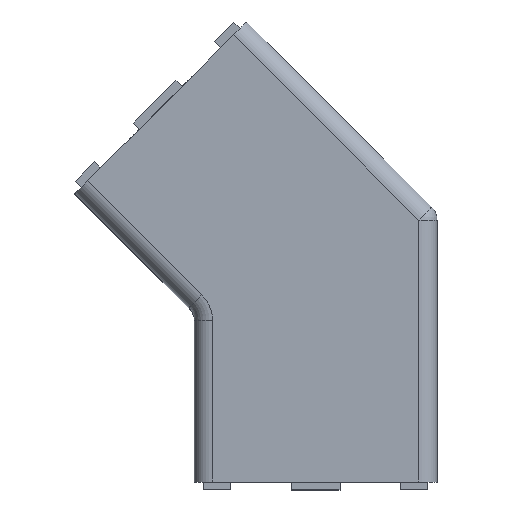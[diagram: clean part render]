
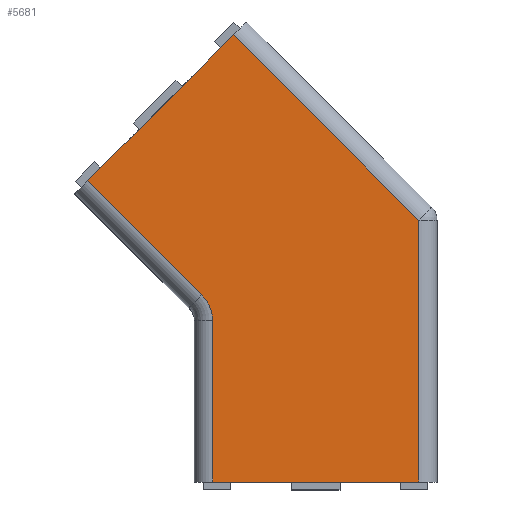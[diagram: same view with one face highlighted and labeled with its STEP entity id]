
A CAD part, top view. The second image highlights one B-rep face of the part: STEP entity #5681.
In plain terms, the highlighted planar face has unit normal (0, 0, 1).
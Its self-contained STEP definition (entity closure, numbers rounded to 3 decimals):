
#65 = VECTOR ( 'NONE', #880, 1000. ) ;
#81 = AXIS2_PLACEMENT_3D ( 'NONE', #7157, #4298, #4864 ) ;
#295 = DIRECTION ( 'NONE',  ( 1., 0., 0. ) ) ;
#323 = VERTEX_POINT ( 'NONE', #2312 ) ;
#692 = ORIENTED_EDGE ( 'NONE', *, *, #952, .F. ) ;
#765 = LINE ( 'NONE', #6126, #3161 ) ;
#880 = DIRECTION ( 'NONE',  ( 0., 1., 0. ) ) ;
#952 = EDGE_CURVE ( 'NONE', #955, #5281, #5369, .T. ) ;
#955 = VERTEX_POINT ( 'NONE', #6483 ) ;
#1208 = CARTESIAN_POINT ( 'NONE',  ( -17., 0., 20. ) ) ;
#1235 = CARTESIAN_POINT ( 'NONE',  ( 20., 6.8, 20. ) ) ;
#1253 = EDGE_CURVE ( 'NONE', #3680, #3958, #6692, .T. ) ;
#1265 = DIRECTION ( 'NONE',  ( -1., 0., 0. ) ) ;
#1721 = LINE ( 'NONE', #3820, #65 ) ;
#2070 = CARTESIAN_POINT ( 'NONE',  ( -18.757, 30.839, 20. ) ) ;
#2143 = CARTESIAN_POINT ( 'NONE',  ( -17.879, 29.96, 20. ) ) ;
#2312 = CARTESIAN_POINT ( 'NONE',  ( 17., 0., 20. ) ) ;
#2580 = DIRECTION ( 'NONE',  ( 0.707, 0.707, 0. ) ) ;
#2909 = CARTESIAN_POINT ( 'NONE',  ( -37.564, 49.645, 20. ) ) ;
#2955 = EDGE_LOOP ( 'NONE', ( #692, #5087, #6919, #5954, #6850, #5435, #3829 ) ) ;
#3128 = EDGE_CURVE ( 'NONE', #4150, #3958, #765, .T. ) ;
#3161 = VECTOR ( 'NONE', #2580, 1000. ) ;
#3680 = VERTEX_POINT ( 'NONE', #6456 ) ;
#3738 = LINE ( 'NONE', #5488, #6684 ) ;
#3820 = CARTESIAN_POINT ( 'NONE',  ( 17., 6.8, 20. ) ) ;
#3829 = ORIENTED_EDGE ( 'NONE', *, *, #6761, .T. ) ;
#3874 = VECTOR ( 'NONE', #5214, 1000. ) ;
#3938 = AXIS2_PLACEMENT_3D ( 'NONE', #1235, #4851, #1265 ) ;
#3958 = VERTEX_POINT ( 'NONE', #6997 ) ;
#4150 = VERTEX_POINT ( 'NONE', #2909 ) ;
#4227 = EDGE_CURVE ( 'NONE', #955, #5658, #3738, .T. ) ;
#4298 = DIRECTION ( 'NONE',  ( 0., 0., 1. ) ) ;
#4312 = PLANE ( 'NONE',  #3938 ) ;
#4438 = VECTOR ( 'NONE', #295, 1000. ) ;
#4769 = VECTOR ( 'NONE', #5146, 1000. ) ;
#4851 = DIRECTION ( 'NONE',  ( 0., 0., -1. ) ) ;
#4864 = DIRECTION ( 'NONE',  ( -1., 0., 0. ) ) ;
#4891 = LINE ( 'NONE', #2143, #3874 ) ;
#5087 = ORIENTED_EDGE ( 'NONE', *, *, #4227, .T. ) ;
#5109 = FACE_OUTER_BOUND ( 'NONE', #2955, .T. ) ;
#5146 = DIRECTION ( 'NONE',  ( -0.707, 0.707, 0. ) ) ;
#5214 = DIRECTION ( 'NONE',  ( 0.707, -0.707, 0. ) ) ;
#5281 = VERTEX_POINT ( 'NONE', #2070 ) ;
#5369 = CIRCLE ( 'NONE', #81, 6. ) ;
#5431 = DIRECTION ( 'NONE',  ( 0., -1., 0. ) ) ;
#5435 = ORIENTED_EDGE ( 'NONE', *, *, #3128, .F. ) ;
#5488 = CARTESIAN_POINT ( 'NONE',  ( -17., 6.8, 20. ) ) ;
#5658 = VERTEX_POINT ( 'NONE', #1208 ) ;
#5681 = ADVANCED_FACE ( 'NONE', ( #5109 ), #4312, .F. ) ;
#5954 = ORIENTED_EDGE ( 'NONE', *, *, #6660, .T. ) ;
#6126 = CARTESIAN_POINT ( 'NONE',  ( -11.401, 75.808, 20. ) ) ;
#6456 = CARTESIAN_POINT ( 'NONE',  ( 17., 43.165, 20. ) ) ;
#6483 = CARTESIAN_POINT ( 'NONE',  ( -17., 26.596, 20. ) ) ;
#6660 = EDGE_CURVE ( 'NONE', #323, #3680, #1721, .T. ) ;
#6684 = VECTOR ( 'NONE', #5431, 1000. ) ;
#6692 = LINE ( 'NONE', #7462, #4769 ) ;
#6761 = EDGE_CURVE ( 'NONE', #4150, #5281, #4891, .T. ) ;
#6772 = EDGE_CURVE ( 'NONE', #5658, #323, #7728, .T. ) ;
#6850 = ORIENTED_EDGE ( 'NONE', *, *, #1253, .T. ) ;
#6911 = CARTESIAN_POINT ( 'NONE',  ( 20., 0., 20. ) ) ;
#6919 = ORIENTED_EDGE ( 'NONE', *, *, #6772, .T. ) ;
#6997 = CARTESIAN_POINT ( 'NONE',  ( -13.522, 73.687, 20. ) ) ;
#7157 = CARTESIAN_POINT ( 'NONE',  ( -23., 26.596, 20. ) ) ;
#7462 = CARTESIAN_POINT ( 'NONE',  ( -13.522, 73.687, 20. ) ) ;
#7728 = LINE ( 'NONE', #6911, #4438 ) ;
